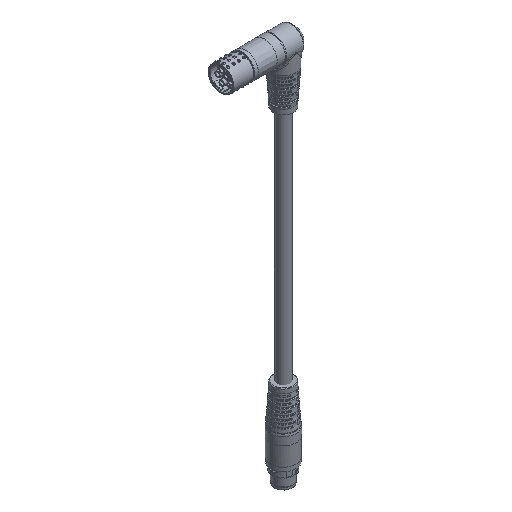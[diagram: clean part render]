
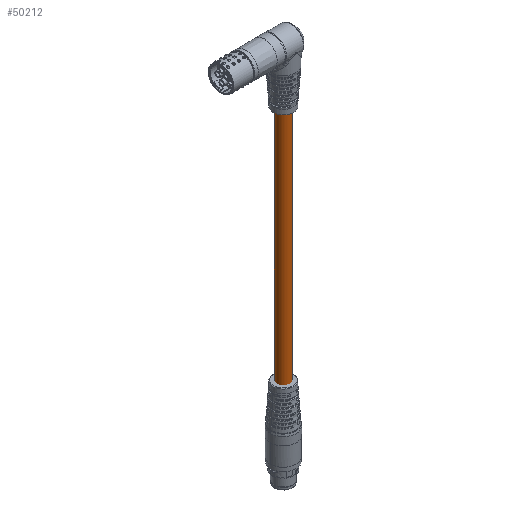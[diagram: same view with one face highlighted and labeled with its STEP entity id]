
A CAD part, isometric view. The second image highlights one B-rep face of the part: STEP entity #50212.
In plain terms, the highlighted cylindrical face has radius 5.3 mm (diameter 10.6 mm), a full revolution.
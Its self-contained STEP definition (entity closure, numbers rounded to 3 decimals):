
#657 = CARTESIAN_POINT ( 'NONE',  ( -43.259, 42.123, -59.463 ) ) ;
#1135 = DIRECTION ( 'NONE',  ( 0.795, 0.606, 0. ) ) ;
#1658 = VERTEX_POINT ( 'NONE', #45096 ) ;
#3100 = CIRCLE ( 'NONE', #49846, 5.3 ) ;
#8934 = AXIS2_PLACEMENT_3D ( 'NONE', #15148, #27077, #38847 ) ;
#14887 = FACE_OUTER_BOUND ( 'NONE', #34601, .T. ) ;
#15148 = CARTESIAN_POINT ( 'NONE',  ( -43.259, 42.123, -259.463 ) ) ;
#17069 = CARTESIAN_POINT ( 'NONE',  ( -43.259, 42.123, -259.463 ) ) ;
#18121 = VERTEX_POINT ( 'NONE', #28833 ) ;
#18731 = EDGE_CURVE ( 'NONE', #18121, #18121, #3100, .T. ) ;
#19321 = EDGE_CURVE ( 'NONE', #1658, #1658, #25979, .T. ) ;
#23050 = ORIENTED_EDGE ( 'NONE', *, *, #18731, .F. ) ;
#23615 = FACE_OUTER_BOUND ( 'NONE', #51589, .T. ) ;
#25077 = DIRECTION ( 'NONE',  ( 0.795, 0.606, 0. ) ) ;
#25157 = AXIS2_PLACEMENT_3D ( 'NONE', #17069, #33302, #1135 ) ;
#25979 = CIRCLE ( 'NONE', #25157, 5.3 ) ;
#26897 = ORIENTED_EDGE ( 'NONE', *, *, #19321, .T. ) ;
#27077 = DIRECTION ( 'NONE',  ( 0., 0., 1. ) ) ;
#28833 = CARTESIAN_POINT ( 'NONE',  ( -39.045, 45.337, -59.463 ) ) ;
#32558 = DIRECTION ( 'NONE',  ( 0., 0., 1. ) ) ;
#33302 = DIRECTION ( 'NONE',  ( 0., 0., 1. ) ) ;
#34601 = EDGE_LOOP ( 'NONE', ( #26897 ) ) ;
#38847 = DIRECTION ( 'NONE',  ( 0.795, 0.606, 0. ) ) ;
#45096 = CARTESIAN_POINT ( 'NONE',  ( -39.045, 45.337, -259.463 ) ) ;
#49846 = AXIS2_PLACEMENT_3D ( 'NONE', #657, #32558, #25077 ) ;
#50212 = ADVANCED_FACE ( 'NONE', ( #14887, #23615 ), #51610, .T. ) ;
#51589 = EDGE_LOOP ( 'NONE', ( #23050 ) ) ;
#51610 = CYLINDRICAL_SURFACE ( 'NONE', #8934, 5.3 ) ;
